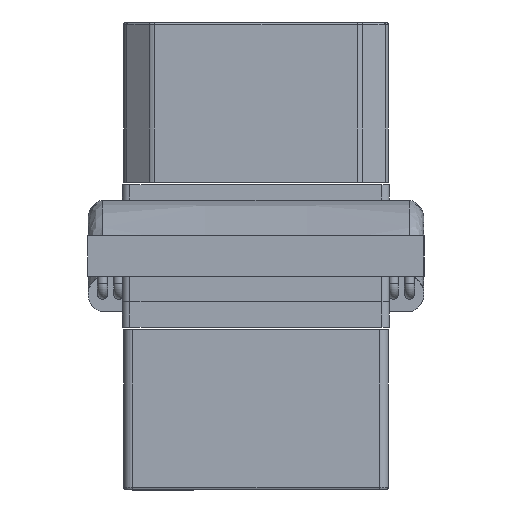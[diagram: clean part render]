
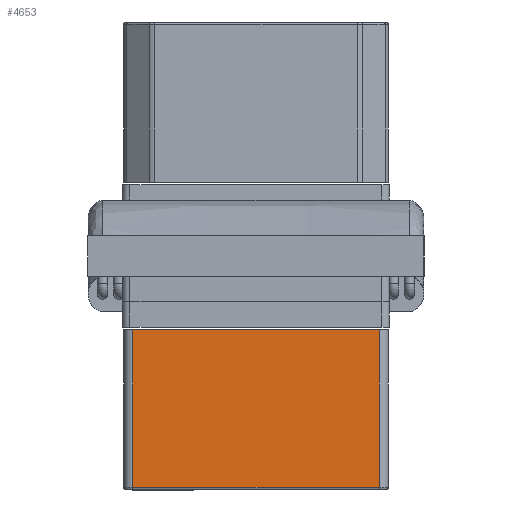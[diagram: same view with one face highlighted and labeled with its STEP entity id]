
A CAD part, front view. The second image highlights one B-rep face of the part: STEP entity #4653.
In plain terms, the highlighted planar face has unit normal (0, -1, 0).
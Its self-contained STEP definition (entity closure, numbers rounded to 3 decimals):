
#3584 = VERTEX_POINT('',#3585);
#3585 = CARTESIAN_POINT('',(-4.85,-5.4,6.3));
#3592 = EDGE_CURVE('',#3593,#3584,#3595,.T.);
#3593 = VERTEX_POINT('',#3594);
#3594 = CARTESIAN_POINT('',(4.85,-5.4,6.3));
#3595 = LINE('',#3596,#3597);
#3596 = CARTESIAN_POINT('',(5.2,-5.4,6.3));
#3597 = VECTOR('',#3598,1.);
#3598 = DIRECTION('',(-1.,0.,0.));
#4653 = ADVANCED_FACE('',(#4654),#4679,.F.);
#4654 = FACE_BOUND('',#4655,.T.);
#4655 = EDGE_LOOP('',(#4656,#4664,#4672,#4678));
#4656 = ORIENTED_EDGE('',*,*,#4657,.T.);
#4657 = EDGE_CURVE('',#3584,#4658,#4660,.T.);
#4658 = VERTEX_POINT('',#4659);
#4659 = CARTESIAN_POINT('',(-4.85,-5.4,0.1));
#4660 = LINE('',#4661,#4662);
#4661 = CARTESIAN_POINT('',(-4.85,-5.4,0.));
#4662 = VECTOR('',#4663,1.);
#4663 = DIRECTION('',(0.,0.,-1.));
#4664 = ORIENTED_EDGE('',*,*,#4665,.T.);
#4665 = EDGE_CURVE('',#4658,#4666,#4668,.T.);
#4666 = VERTEX_POINT('',#4667);
#4667 = CARTESIAN_POINT('',(4.85,-5.4,0.1));
#4668 = LINE('',#4669,#4670);
#4669 = CARTESIAN_POINT('',(4.85,-5.4,0.1));
#4670 = VECTOR('',#4671,1.);
#4671 = DIRECTION('',(1.,0.,0.));
#4672 = ORIENTED_EDGE('',*,*,#4673,.T.);
#4673 = EDGE_CURVE('',#4666,#3593,#4674,.T.);
#4674 = LINE('',#4675,#4676);
#4675 = CARTESIAN_POINT('',(4.85,-5.4,0.));
#4676 = VECTOR('',#4677,1.);
#4677 = DIRECTION('',(0.,0.,1.));
#4678 = ORIENTED_EDGE('',*,*,#3592,.T.);
#4679 = PLANE('',#4680);
#4680 = AXIS2_PLACEMENT_3D('',#4681,#4682,#4683);
#4681 = CARTESIAN_POINT('',(5.2,-5.4,0.));
#4682 = DIRECTION('',(0.,1.,0.));
#4683 = DIRECTION('',(0.,0.,1.));
